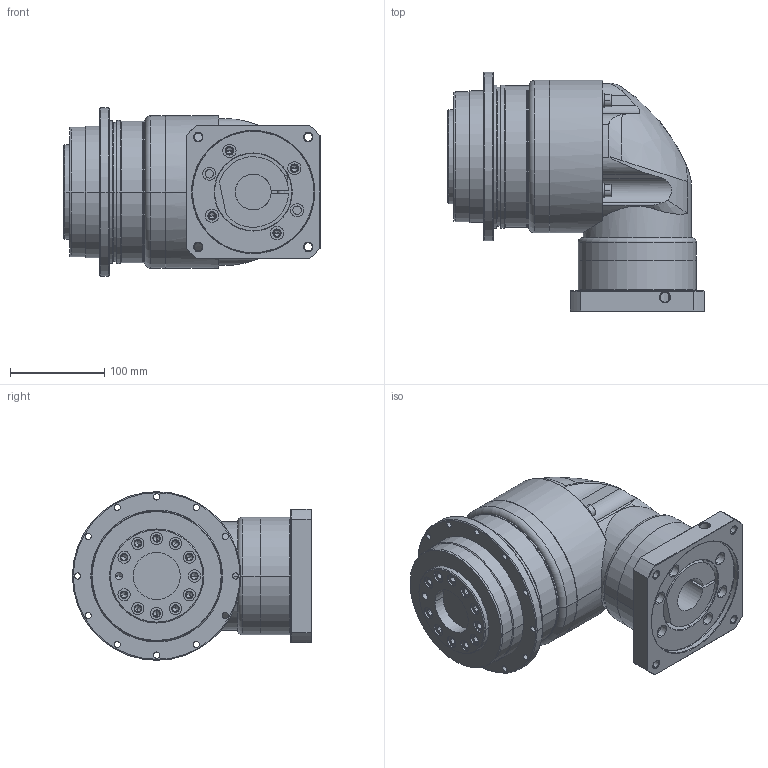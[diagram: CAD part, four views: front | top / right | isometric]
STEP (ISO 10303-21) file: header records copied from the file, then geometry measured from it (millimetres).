
FILE_DESCRIPTION((''),'2;1');
FILE_NAME('ADR1401-P0403500401_ASM','2008-09-02T',('d00080'),(''),'PRO/ENGINEER BY PARAMETRIC TECHNOLOGY CORPORATION, 2006170','PRO/ENGINEER BY PARAMETRIC TECHNOLOGY CORPORATION, 2006170','');
FILE_SCHEMA(('CONFIG_CONTROL_DESIGN'));
Length unit declared in the file: millimetre
Products named in the file (11): AD140-1; P1306500001; 220110603; ADR-PLATE-5_ASM; P1002500001; 233100005; 220100815; HOUSING-SET-5_ASM; P1305500001; P0403500401; ADR1401-P0403500401_ASM
Assembly tree (27 placements, depth 3):
  ADR1401-P0403500401_ASM
    AD140-1
    ADR-PLATE-5_ASM
      P1306500001
      220110603  x12
    HOUSING-SET-5_ASM
      P1002500001
      233100005  x4
      220100815  x4
    P1305500001
    P0403500401
Bounding box: 272 x 254 x 179 mm (x, y, z)
Volume: 4818012.7 mm3; surface area: 443972.3 mm2
Topology: 25 solids, 69 shells, 1290 faces, 2908 edges, 1752 vertices
Faces by surface type: cylinder 568, plane 395, cone 244, torus 65, bspline 18
Entity records: 25108 total; most frequent: CARTESIAN_POINT 5314, DIRECTION 4581, ORIENTED_EDGE 3556, AXIS2_PLACEMENT_3D 1938, EDGE_CURVE 1866, VERTEX_POINT 1196, CIRCLE 1062, EDGE_LOOP 1050
